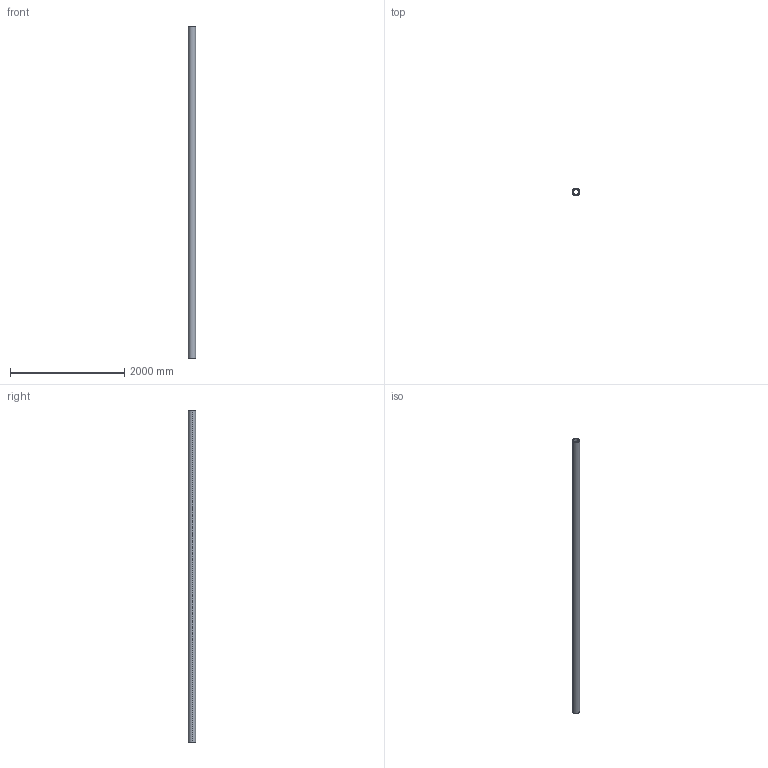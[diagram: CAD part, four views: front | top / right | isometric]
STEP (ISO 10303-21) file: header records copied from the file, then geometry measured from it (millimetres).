
FILE_DESCRIPTION (( 'STEP AP214' ), '1' );
FILE_NAME ('KP_125-110SCEC.step', '2023-03-20T11:15:18', ( '' ), ( '' ), 'SwSTEP 2.0', 'SolidWorks 2022', '' );
FILE_SCHEMA (( 'AUTOMOTIVE_DESIGN' ));
Length unit declared in the file: millimetre
Products named in the file (1): KP_125-110SCEC
Bounding box: 125 x 125 x 5800 mm (x, y, z)
Volume: 24712097.7 mm3; surface area: 8120616.3 mm2
Topology: 2 solids, 2 shells, 12 faces, 24 edges, 16 vertices
Faces by surface type: cylinder 8, plane 4
Entity records: 375 total; most frequent: DIRECTION 66, CARTESIAN_POINT 53, ORIENTED_EDGE 48, AXIS2_PLACEMENT_3D 29, EDGE_CURVE 24, CIRCLE 16, VERTEX_POINT 16, EDGE_LOOP 16
